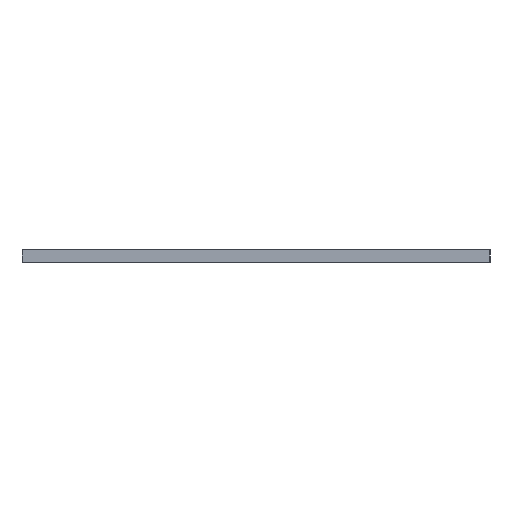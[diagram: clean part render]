
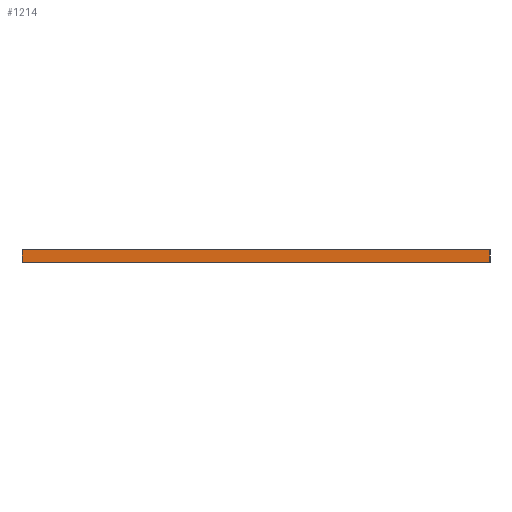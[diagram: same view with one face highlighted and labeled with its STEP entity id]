
A CAD part, left-side view. The second image highlights one B-rep face of the part: STEP entity #1214.
In plain terms, the highlighted planar face has unit normal (-1, 0, 0).
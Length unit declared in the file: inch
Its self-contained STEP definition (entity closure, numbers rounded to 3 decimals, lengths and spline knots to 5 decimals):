
#40 = ORIENTED_EDGE ( 'NONE', *, *, #308, .T. ) ;
#47 = CARTESIAN_POINT ( 'NONE',  ( -18., -9.5, 0.5 ) ) ;
#134 = VERTEX_POINT ( 'NONE', #1209 ) ;
#208 = EDGE_LOOP ( 'NONE', ( #40, #893, #989, #1226 ) ) ;
#228 = CARTESIAN_POINT ( 'NONE',  ( -18., 9.5, 0. ) ) ;
#308 = EDGE_CURVE ( 'NONE', #640, #846, #735, .T. ) ;
#348 = CARTESIAN_POINT ( 'NONE',  ( -18., -9.5, 0. ) ) ;
#507 = CARTESIAN_POINT ( 'NONE',  ( -18., -9.5, 0.5 ) ) ;
#560 = CARTESIAN_POINT ( 'NONE',  ( -18., 9.5, 0.5 ) ) ;
#568 = VECTOR ( 'NONE', #1028, 39.37008 ) ;
#640 = VERTEX_POINT ( 'NONE', #228 ) ;
#668 = FACE_OUTER_BOUND ( 'NONE', #208, .T. ) ;
#707 = VECTOR ( 'NONE', #890, 39.37008 ) ;
#735 = LINE ( 'NONE', #348, #568 ) ;
#751 = CARTESIAN_POINT ( 'NONE',  ( -18., -9.5, 0. ) ) ;
#761 = DIRECTION ( 'NONE',  ( 0., 0., -1. ) ) ;
#763 = DIRECTION ( 'NONE',  ( 0., 0., -1. ) ) ;
#791 = LINE ( 'NONE', #507, #707 ) ;
#793 = EDGE_CURVE ( 'NONE', #134, #640, #1053, .T. ) ;
#846 = VERTEX_POINT ( 'NONE', #751 ) ;
#849 = EDGE_CURVE ( 'NONE', #1269, #846, #1136, .T. ) ;
#864 = CARTESIAN_POINT ( 'NONE',  ( -18., -9.5, 0.5 ) ) ;
#890 = DIRECTION ( 'NONE',  ( 0., -1., 0. ) ) ;
#893 = ORIENTED_EDGE ( 'NONE', *, *, #849, .F. ) ;
#959 = PLANE ( 'NONE',  #1250 ) ;
#989 = ORIENTED_EDGE ( 'NONE', *, *, #1055, .F. ) ;
#1028 = DIRECTION ( 'NONE',  ( 0., -1., 0. ) ) ;
#1050 = DIRECTION ( 'NONE',  ( 1., 0., 0. ) ) ;
#1053 = LINE ( 'NONE', #560, #1140 ) ;
#1055 = EDGE_CURVE ( 'NONE', #134, #1269, #791, .T. ) ;
#1062 = CARTESIAN_POINT ( 'NONE',  ( -18., -9.5, 0.5 ) ) ;
#1092 = VECTOR ( 'NONE', #761, 39.37008 ) ;
#1136 = LINE ( 'NONE', #47, #1092 ) ;
#1140 = VECTOR ( 'NONE', #1235, 39.37008 ) ;
#1209 = CARTESIAN_POINT ( 'NONE',  ( -18., 9.5, 0.5 ) ) ;
#1214 = ADVANCED_FACE ( 'NONE', ( #668 ), #959, .F. ) ;
#1226 = ORIENTED_EDGE ( 'NONE', *, *, #793, .T. ) ;
#1235 = DIRECTION ( 'NONE',  ( 0., 0., -1. ) ) ;
#1250 = AXIS2_PLACEMENT_3D ( 'NONE', #864, #1050, #763 ) ;
#1269 = VERTEX_POINT ( 'NONE', #1062 ) ;
